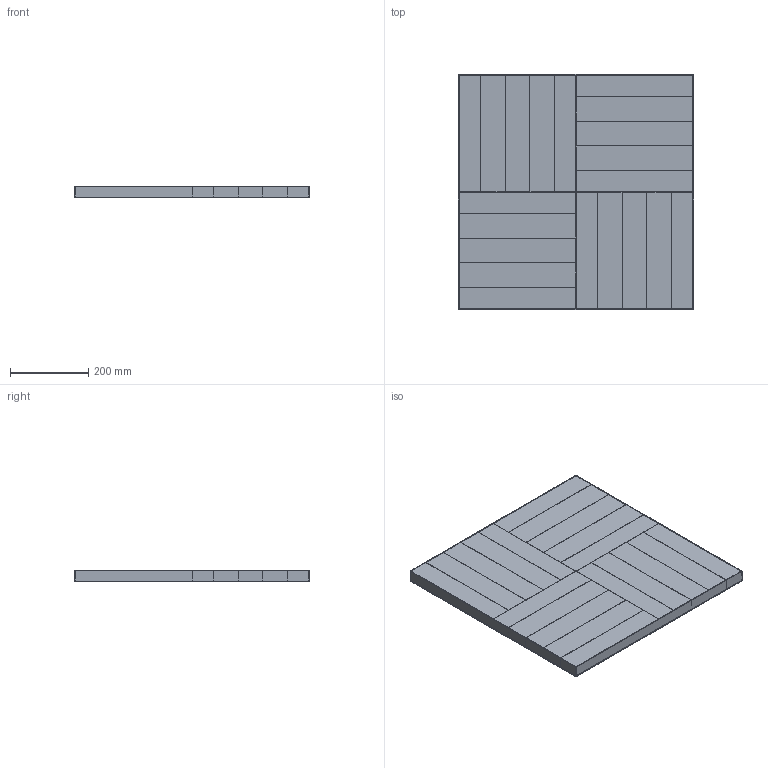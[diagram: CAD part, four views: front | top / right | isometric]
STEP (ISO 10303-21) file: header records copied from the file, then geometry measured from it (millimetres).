
FILE_DESCRIPTION(/* description */ (''),/* implementation_level */ '2;1');
FILE_NAME(/* name */ 'KINOSH~1',/* time_stamp */ '2021-12-15T13:52:53+09:00',/* author */ (''),/* organization */ (''),/* preprocessor_version */ 'ST-DEVELOPER v16.5',/* originating_system */ '',/* authorisation */ '');
FILE_SCHEMA (('AUTOMOTIVE_DESIGN'));
Length unit declared in the file: millimetre
Products named in the file (1): Document
Bounding box: 600 x 600 x 30 mm (x, y, z)
Volume: 10787006.6 mm3; surface area: 1069608.9 mm2
Topology: 2 solids, 2 shells, 193 faces, 452 edges, 265 vertices
Faces by surface type: bspline 104, plane 89
Entity records: 5888 total; most frequent: CARTESIAN_POINT 2956, ORIENTED_EDGE 904, EDGE_CURVE 452, B_SPLINE_CURVE_WITH_KNOTS 412, VERTEX_POINT 265, EDGE_LOOP 197, ADVANCED_FACE 193, FACE_OUTER_BOUND 193
